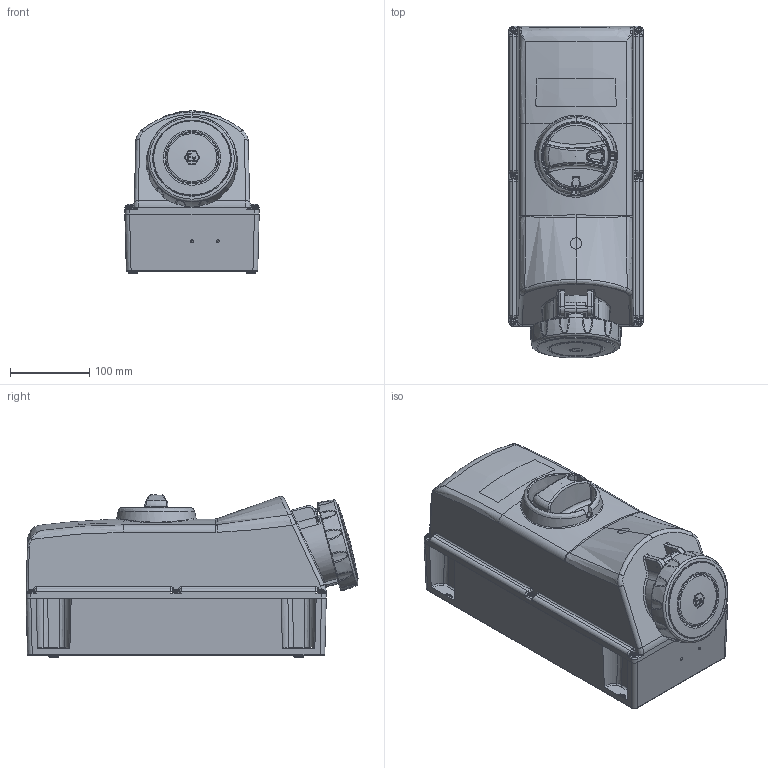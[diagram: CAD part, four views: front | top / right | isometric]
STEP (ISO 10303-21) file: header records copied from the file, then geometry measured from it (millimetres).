
FILE_DESCRIPTION(/* description */ (''),/* implementation_level */ '2;1');
FILE_NAME(/* name */ '4000901.stp',/* time_stamp */ '2017-05-30T07:53:00+02:00',/* author */ (''),/* organization */ (''),/* preprocessor_version */ 'ST-DEVELOPER v16',/* originating_system */ 'SIEMENS PLM Software NX 11.0',/* authorisation */ '');
FILE_SCHEMA (('AUTOMOTIVE_DESIGN { 1 0 10303 214 3 1 1 1 }'));
Length unit declared in the file: millimetre
Products named in the file (1): 4000901_LINKEDEXT_jt
Bounding box: 170 x 420.14 x 205.75 mm (x, y, z)
Surface area: 374977.4 mm2 (no closed solid volume)
Topology: 0 solids, 44 shells, 492 faces, 1788 edges, 1270 vertices
Faces by surface type: bspline 192, cylinder 112, plane 86, torus 55, cone 31, sphere 16
Full cylindrical faces by diameter (mm): 6.8 x6, 98 x1, 103 x1
Entity records: 32499 total; most frequent: CARTESIAN_POINT 15923, ORIENTED_EDGE 2523, DIRECTION 2523, EDGE_CURVE 1705, VERTEX_POINT 1237, AXIS2_PLACEMENT_3D 1032, CIRCLE 603, EDGE_LOOP 542
